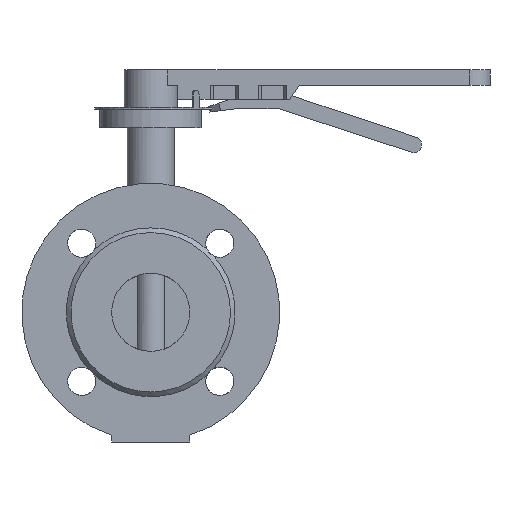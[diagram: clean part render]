
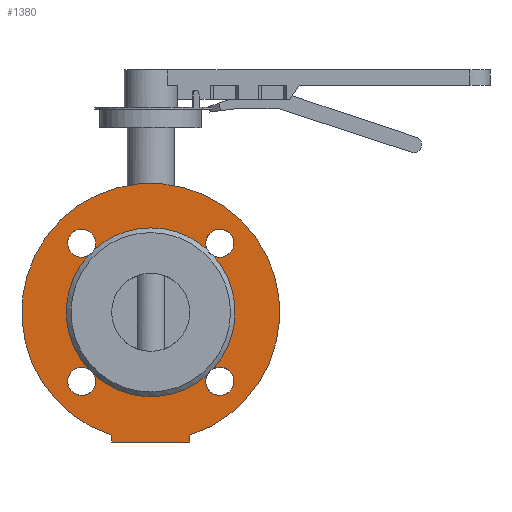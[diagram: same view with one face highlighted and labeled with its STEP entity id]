
A CAD part, front view. The second image highlights one B-rep face of the part: STEP entity #1380.
In plain terms, the highlighted planar face has unit normal (0, -1, 0).
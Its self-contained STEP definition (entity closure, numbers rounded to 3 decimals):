
#1380=ADVANCED_FACE('',(#2624,#2626),#2628,.T.);
#2624=FACE_BOUND('',#2625,.T.);
#2625=EDGE_LOOP('',(#3551,#3552,#3553,#3554));
#2626=FACE_BOUND('',#2627,.T.);
#2627=EDGE_LOOP('',(#3555,#3556,#3557,#3558,#3559,#3560,#3561,#3562,#3563,#3564,
#3565,#3566,#3567));
#2628=PLANE('',#2629);
#2629=AXIS2_PLACEMENT_3D('',#2630,#2631,#2632);
#2630=CARTESIAN_POINT('',(0.,-51.,0.));
#2631=DIRECTION('',(0.,-1.,0.));
#2632=DIRECTION('',(0.,0.,1.));
#3551=ORIENTED_EDGE('',*,*,#4015,.T.);
#3552=ORIENTED_EDGE('',*,*,#4013,.F.);
#3553=ORIENTED_EDGE('',*,*,#4011,.F.);
#3554=ORIENTED_EDGE('',*,*,#4010,.F.);
#3555=ORIENTED_EDGE('',*,*,#4031,.T.);
#3556=ORIENTED_EDGE('',*,*,#4033,.T.);
#3557=ORIENTED_EDGE('',*,*,#4069,.T.);
#3558=ORIENTED_EDGE('',*,*,#4036,.T.);
#3559=ORIENTED_EDGE('',*,*,#4035,.T.);
#3560=ORIENTED_EDGE('',*,*,#4070,.T.);
#3561=ORIENTED_EDGE('',*,*,#4039,.T.);
#3562=ORIENTED_EDGE('',*,*,#4038,.T.);
#3563=ORIENTED_EDGE('',*,*,#4071,.T.);
#3564=ORIENTED_EDGE('',*,*,#4040,.T.);
#3565=ORIENTED_EDGE('',*,*,#4042,.T.);
#3566=ORIENTED_EDGE('',*,*,#4072,.T.);
#3567=ORIENTED_EDGE('',*,*,#4073,.T.);
#4010=EDGE_CURVE('',#4711,#4709,#4713,.T.);
#4011=EDGE_CURVE('',#4709,#4714,#4715,.T.);
#4013=EDGE_CURVE('',#4714,#4717,#4718,.T.);
#4015=EDGE_CURVE('',#4711,#4717,#4720,.T.);
#4031=EDGE_CURVE('',#4742,#4743,#4744,.F.);
#4033=EDGE_CURVE('',#4743,#4745,#4747,.F.);
#4035=EDGE_CURVE('',#4751,#4748,#4752,.F.);
#4036=EDGE_CURVE('',#4749,#4751,#4753,.F.);
#4038=EDGE_CURVE('',#4757,#4754,#4758,.F.);
#4039=EDGE_CURVE('',#4755,#4757,#4759,.F.);
#4040=EDGE_CURVE('',#4760,#4761,#4762,.F.);
#4042=EDGE_CURVE('',#4761,#4763,#4765,.F.);
#4069=EDGE_CURVE('',#4745,#4749,#4811,.T.);
#4070=EDGE_CURVE('',#4748,#4755,#4812,.T.);
#4071=EDGE_CURVE('',#4754,#4760,#4813,.T.);
#4072=EDGE_CURVE('',#4763,#4814,#4815,.T.);
#4073=EDGE_CURVE('',#4814,#4742,#4816,.T.);
#4709=VERTEX_POINT('',#6711);
#4711=VERTEX_POINT('',#6715);
#4713=CIRCLE('',#6719,82.5);
#4714=VERTEX_POINT('',#6723);
#4715=LINE('',#6724,#6725);
#4717=VERTEX_POINT('',#6730);
#4718=LINE('',#6731,#6732);
#4720=LINE('',#6737,#6738);
#4742=VERTEX_POINT('',#6926);
#4743=VERTEX_POINT('',#6927);
#4744=CIRCLE('',#6928,9.);
#4745=VERTEX_POINT('',#6932);
#4747=CIRCLE('',#6988,9.);
#4748=VERTEX_POINT('',#6992);
#4749=VERTEX_POINT('',#6993);
#4751=VERTEX_POINT('',#7049);
#4752=CIRCLE('',#7050,9.);
#4753=CIRCLE('',#7054,9.);
#4754=VERTEX_POINT('',#7058);
#4755=VERTEX_POINT('',#7059);
#4757=VERTEX_POINT('',#7115);
#4758=CIRCLE('',#7116,9.);
#4759=CIRCLE('',#7120,9.);
#4760=VERTEX_POINT('',#7124);
#4761=VERTEX_POINT('',#7125);
#4762=CIRCLE('',#7126,9.);
#4763=VERTEX_POINT('',#7130);
#4765=CIRCLE('',#7186,9.);
#4811=CIRCLE('',#7474,54.);
#4812=CIRCLE('',#7478,54.);
#4813=CIRCLE('',#7482,54.);
#4814=VERTEX_POINT('',#7486);
#4815=CIRCLE('',#7487,54.);
#4816=CIRCLE('',#7491,54.);
#6711=CARTESIAN_POINT('',(25.,-51.,-78.621));
#6715=CARTESIAN_POINT('',(-25.,-51.,-78.621));
#6719=AXIS2_PLACEMENT_3D('',#6720,#6721,#6722);
#6720=CARTESIAN_POINT('',(0.,-51.,0.));
#6721=DIRECTION('',(0.,1.,0.));
#6722=DIRECTION('',(-0.303,0.,-0.953));
#6723=CARTESIAN_POINT('',(25.,-51.,-83.));
#6724=CARTESIAN_POINT('',(25.,-51.,-78.621));
#6725=VECTOR('',#6726,1.);
#6726=DIRECTION('',(0.,0.,-1.));
#6730=CARTESIAN_POINT('',(-25.,-51.,-83.));
#6731=CARTESIAN_POINT('',(25.,-51.,-83.));
#6732=VECTOR('',#6733,1.);
#6733=DIRECTION('',(-1.,0.,0.));
#6737=CARTESIAN_POINT('',(-25.,-51.,-78.621));
#6738=VECTOR('',#6739,1.);
#6739=DIRECTION('',(0.,0.,-1.));
#6926=CARTESIAN_POINT('',(36.191,-51.,40.078));
#6927=CARTESIAN_POINT('',(44.194,-51.,35.194));
#6928=AXIS2_PLACEMENT_3D('',#6929,#6930,#6931);
#6929=CARTESIAN_POINT('',(44.194,-51.,44.194));
#6930=DIRECTION('',(0.,-1.,0.));
#6931=DIRECTION('',(0.,0.,-1.));
#6932=CARTESIAN_POINT('',(40.078,-51.,36.191));
#6988=AXIS2_PLACEMENT_3D('',#6989,#6990,#6991);
#6989=CARTESIAN_POINT('',(44.194,-51.,44.194));
#6990=DIRECTION('',(0.,-1.,0.));
#6991=DIRECTION('',(-0.457,0.,-0.889));
#6992=CARTESIAN_POINT('',(36.191,-51.,-40.078));
#6993=CARTESIAN_POINT('',(40.078,-51.,-36.191));
#7049=CARTESIAN_POINT('',(35.194,-51.,-44.194));
#7050=AXIS2_PLACEMENT_3D('',#7051,#7052,#7053);
#7051=CARTESIAN_POINT('',(44.194,-51.,-44.194));
#7052=DIRECTION('',(0.,-1.,0.));
#7053=DIRECTION('',(-0.889,0.,0.457));
#7054=AXIS2_PLACEMENT_3D('',#7055,#7056,#7057);
#7055=CARTESIAN_POINT('',(44.194,-51.,-44.194));
#7056=DIRECTION('',(0.,-1.,0.));
#7057=DIRECTION('',(-1.,0.,0.));
#7058=CARTESIAN_POINT('',(-40.078,-51.,-36.191));
#7059=CARTESIAN_POINT('',(-36.191,-51.,-40.078));
#7115=CARTESIAN_POINT('',(-44.194,-51.,-35.194));
#7116=AXIS2_PLACEMENT_3D('',#7117,#7118,#7119);
#7117=CARTESIAN_POINT('',(-44.194,-51.,-44.194));
#7118=DIRECTION('',(0.,-1.,0.));
#7119=DIRECTION('',(0.457,0.,0.889));
#7120=AXIS2_PLACEMENT_3D('',#7121,#7122,#7123);
#7121=CARTESIAN_POINT('',(-44.194,-51.,-44.194));
#7122=DIRECTION('',(0.,-1.,0.));
#7123=DIRECTION('',(0.,0.,1.));
#7124=CARTESIAN_POINT('',(-40.078,-51.,36.191));
#7125=CARTESIAN_POINT('',(-35.194,-51.,44.194));
#7126=AXIS2_PLACEMENT_3D('',#7127,#7128,#7129);
#7127=CARTESIAN_POINT('',(-44.194,-51.,44.194));
#7128=DIRECTION('',(0.,-1.,0.));
#7129=DIRECTION('',(1.,0.,0.));
#7130=CARTESIAN_POINT('',(-36.191,-51.,40.078));
#7186=AXIS2_PLACEMENT_3D('',#7187,#7188,#7189);
#7187=CARTESIAN_POINT('',(-44.194,-51.,44.194));
#7188=DIRECTION('',(0.,-1.,0.));
#7189=DIRECTION('',(0.889,0.,-0.457));
#7474=AXIS2_PLACEMENT_3D('',#7475,#7476,#7477);
#7475=CARTESIAN_POINT('',(0.,-51.,0.));
#7476=DIRECTION('',(0.,1.,0.));
#7477=DIRECTION('',(0.742,0.,0.67));
#7478=AXIS2_PLACEMENT_3D('',#7479,#7480,#7481);
#7479=CARTESIAN_POINT('',(0.,-51.,0.));
#7480=DIRECTION('',(0.,1.,0.));
#7481=DIRECTION('',(0.67,0.,-0.742));
#7482=AXIS2_PLACEMENT_3D('',#7483,#7484,#7485);
#7483=CARTESIAN_POINT('',(0.,-51.,0.));
#7484=DIRECTION('',(0.,1.,0.));
#7485=DIRECTION('',(-0.742,0.,-0.67));
#7486=CARTESIAN_POINT('',(0.,-51.,54.));
#7487=AXIS2_PLACEMENT_3D('',#7488,#7489,#7490);
#7488=CARTESIAN_POINT('',(0.,-51.,0.));
#7489=DIRECTION('',(0.,1.,0.));
#7490=DIRECTION('',(-0.67,0.,0.742));
#7491=AXIS2_PLACEMENT_3D('',#7492,#7493,#7494);
#7492=CARTESIAN_POINT('',(0.,-51.,0.));
#7493=DIRECTION('',(0.,1.,0.));
#7494=DIRECTION('',(0.,0.,1.));
